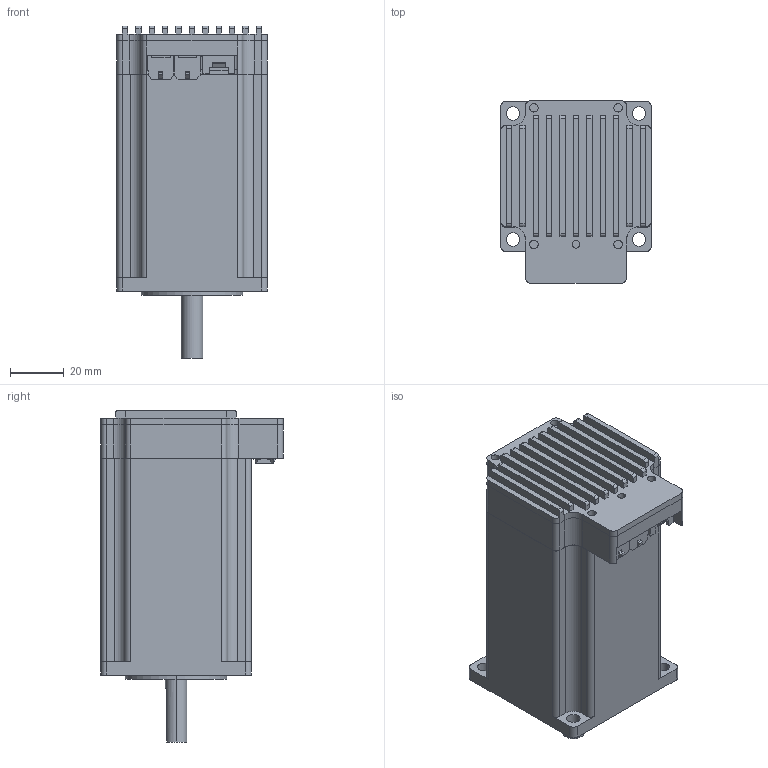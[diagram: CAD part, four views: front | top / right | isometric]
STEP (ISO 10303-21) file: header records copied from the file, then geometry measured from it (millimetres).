
FILE_DESCRIPTION (( 'STEP AP214' ), '1' );
FILE_NAME ('57BLDC_125W_FULL_STEP.STEP', '2023-04-05T04:50:11', ( 'shaun' ), ( '' ), 'SwSTEP 2.0', 'SolidWorks 2020', '' );
FILE_SCHEMA (( 'AUTOMOTIVE_DESIGN' ));
Length unit declared in the file: millimetre
Products named in the file (5): 57BLDC_125W_BODY; 57_B_LOWER_20230325; 57BLDC_125W_FULL_STEP; 57_B_UPPER_20230331; 57_V002_B_BOARD_SIMPLE
Assembly tree (4 placements, depth 2):
  57BLDC_125W_FULL_STEP
    57_B_LOWER_20230325
    57_B_UPPER_20230331
    57_V002_B_BOARD_SIMPLE
    57BLDC_125W_BODY
Bounding box: 56.2 x 68.1 x 124 mm (x, y, z)
Volume: 260043.7 mm3; surface area: 67176.6 mm2
Topology: 207 solids, 207 shells, 2530 faces, 5999 edges, 3936 vertices
Faces by surface type: plane 1329, cylinder 1193, cone 8
Entity records: 100283 total; most frequent: DIRECTION 13485, CARTESIAN_POINT 12483, ORIENTED_EDGE 11998, EDGE_CURVE 5999, AXIS2_PLACEMENT_3D 4952, VERTEX_POINT 3936, LINE 3581, VECTOR 3581
